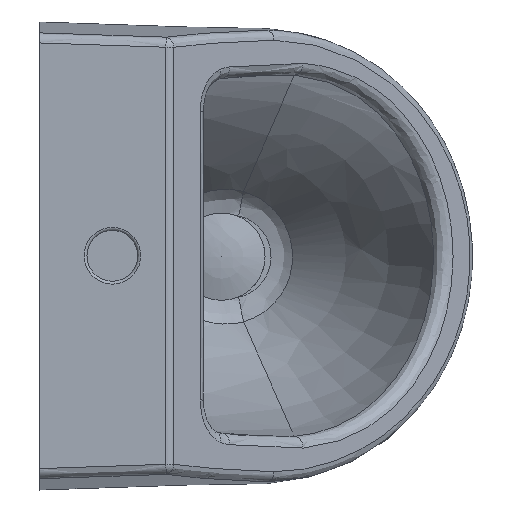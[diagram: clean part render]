
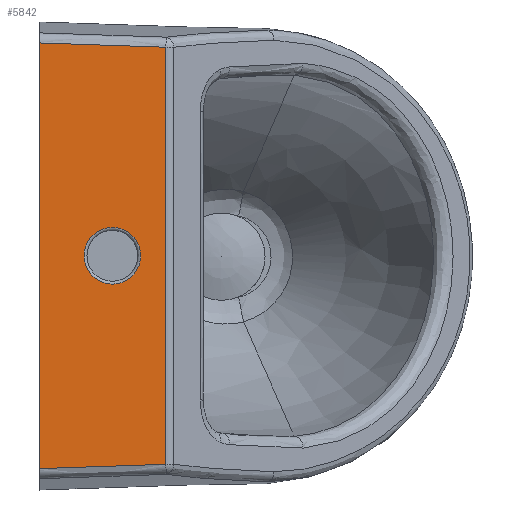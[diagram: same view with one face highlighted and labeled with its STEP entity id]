
A CAD part, top view. The second image highlights one B-rep face of the part: STEP entity #5842.
In plain terms, the highlighted planar face has unit normal (0, 0, 1) as drawn and (0, 0, -1) by its records, which use the part's own axes.
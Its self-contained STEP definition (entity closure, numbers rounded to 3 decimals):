
#2499=CARTESIAN_POINT('',(271.37,14.863,-265.));
#2500=VERTEX_POINT('',#2499);
#2523=CARTESIAN_POINT('',(-21.407,14.863,-265.));
#2524=VERTEX_POINT('',#2523);
#2525=CARTESIAN_POINT('',(-21.407,14.863,-265.0));
#2526=DIRECTION('',(1.0,0.0,0.0));
#2527=VECTOR('',#2526,292.777);
#2528=LINE('',#2525,#2527);
#2529=EDGE_CURVE('',#2524,#2500,#2528,.T.);
#5775=CARTESIAN_POINT('',(105.481,-35.137,-265.));
#5776=VERTEX_POINT('',#5775);
#5777=CARTESIAN_POINT('',(124.981,-35.137,-265.));
#5778=DIRECTION('',(0.0,0.0,-1.0));
#5779=DIRECTION('',(1.0,0.0,0.0));
#5780=AXIS2_PLACEMENT_3D('',#5777,#5778,#5779);
#5781=CIRCLE('',#5780,19.5);
#5782=EDGE_CURVE('',#5776,#5776,#5781,.T.);
#5807=CARTESIAN_POINT('',(124.981,-108.398,-265.));
#5808=DIRECTION('',(0.0,0.0,1.0));
#5809=DIRECTION('',(1.0,0.0,0.0));
#5810=AXIS2_PLACEMENT_3D('',#5807,#5808,#5809);
#5811=PLANE('',#5810);
#5812=CARTESIAN_POINT('',(-18.465,-71.934,-265.));
#5813=VERTEX_POINT('',#5812);
#5814=CARTESIAN_POINT('',(268.427,-71.934,-265.));
#5815=VERTEX_POINT('',#5814);
#5816=CARTESIAN_POINT('',(-18.465,-71.934,-265.));
#5817=DIRECTION('',(1.0,0.0,0.0));
#5818=VECTOR('',#5817,286.892);
#5819=LINE('',#5816,#5818);
#5820=EDGE_CURVE('',#5813,#5815,#5819,.T.);
#5821=ORIENTED_EDGE('',*,*,#5820,.F.);
#5822=CARTESIAN_POINT('',(-21.407,14.863,-265.));
#5823=CARTESIAN_POINT('',(-20.426,-14.069,-265.));
#5824=CARTESIAN_POINT('',(-19.446,-43.001,-265.));
#5825=CARTESIAN_POINT('',(-18.465,-71.934,-265.));
#5826=B_SPLINE_CURVE_WITH_KNOTS('',3,(#5822,#5823,#5824,#5825),.UNSPECIFIED.,.F.,.U.,(4,4),(0.024,8.708),.UNSPECIFIED.);
#5827=EDGE_CURVE('',#2524,#5813,#5826,.T.);
#5828=ORIENTED_EDGE('',*,*,#5827,.F.);
#5829=ORIENTED_EDGE('',*,*,#2529,.T.);
#5830=CARTESIAN_POINT('',(268.427,-71.934,-265.0));
#5831=CARTESIAN_POINT('',(269.408,-43.001,-265.0));
#5832=CARTESIAN_POINT('',(270.389,-14.069,-265.));
#5833=CARTESIAN_POINT('',(271.37,14.863,-265.));
#5834=B_SPLINE_CURVE_WITH_KNOTS('',3,(#5830,#5831,#5832,#5833),.UNSPECIFIED.,.F.,.U.,(4,4),(6.872,15.557),.UNSPECIFIED.);
#5835=EDGE_CURVE('',#5815,#2500,#5834,.T.);
#5836=ORIENTED_EDGE('',*,*,#5835,.F.);
#5837=EDGE_LOOP('',(#5821,#5828,#5829,#5836));
#5838=FACE_OUTER_BOUND('',#5837,.T.);
#5839=ORIENTED_EDGE('',*,*,#5782,.F.);
#5840=EDGE_LOOP('',(#5839));
#5841=FACE_BOUND('',#5840,.T.);
#5842=ADVANCED_FACE('',(#5838,#5841),#5811,.F.);
